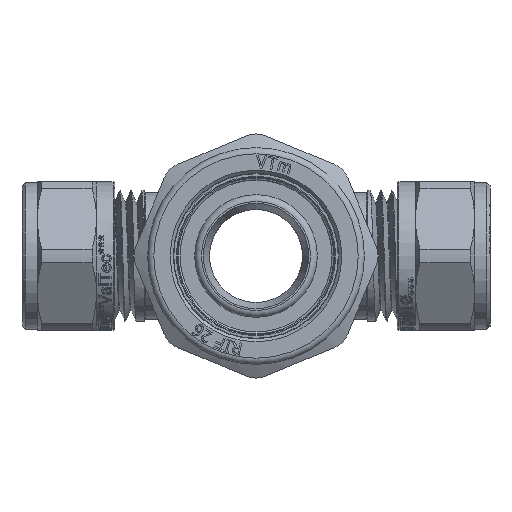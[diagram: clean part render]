
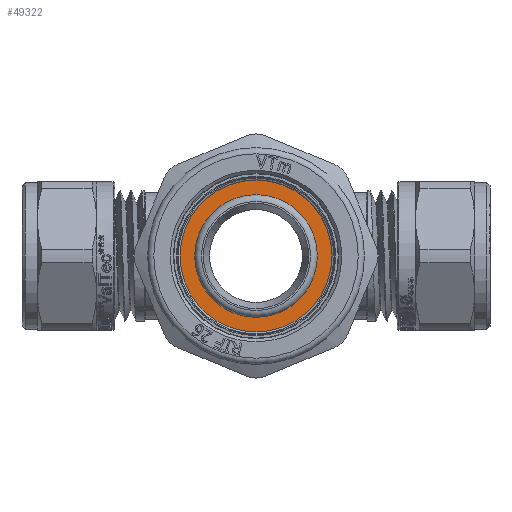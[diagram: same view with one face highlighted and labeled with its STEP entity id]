
A CAD part, left-side view. The second image highlights one B-rep face of the part: STEP entity #49322.
In plain terms, the highlighted planar face has unit normal (-1, 0, 0).
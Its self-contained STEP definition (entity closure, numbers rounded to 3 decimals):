
#2301=PLANE('',#51787);
#2637=FACE_BOUND('',#7585,.T.);
#4714=FACE_OUTER_BOUND('',#7584,.T.);
#7584=EDGE_LOOP('',(#43052,#43053));
#7585=EDGE_LOOP('',(#43054,#43055));
#9147=CIRCLE('',#51785,9.9);
#9148=CIRCLE('',#51786,9.9);
#9149=CIRCLE('',#51788,13.1);
#9150=CIRCLE('',#51789,13.1);
#22870=VERTEX_POINT('',#99817);
#22871=VERTEX_POINT('',#99818);
#22872=VERTEX_POINT('',#99823);
#22873=VERTEX_POINT('',#99824);
#29835=EDGE_CURVE('',#22870,#22871,#9147,.T.);
#29836=EDGE_CURVE('',#22871,#22870,#9148,.T.);
#29838=EDGE_CURVE('',#22872,#22873,#9149,.T.);
#29839=EDGE_CURVE('',#22873,#22872,#9150,.T.);
#43052=ORIENTED_EDGE('',*,*,#29838,.F.);
#43053=ORIENTED_EDGE('',*,*,#29839,.F.);
#43054=ORIENTED_EDGE('',*,*,#29835,.T.);
#43055=ORIENTED_EDGE('',*,*,#29836,.T.);
#49322=ADVANCED_FACE('',(#4714,#2637),#2301,.T.);
#51785=AXIS2_PLACEMENT_3D('',#99819,#58479,#58480);
#51786=AXIS2_PLACEMENT_3D('',#99820,#58481,#58482);
#51787=AXIS2_PLACEMENT_3D('',#99822,#58484,#58485);
#51788=AXIS2_PLACEMENT_3D('',#99825,#58486,#58487);
#51789=AXIS2_PLACEMENT_3D('',#99826,#58488,#58489);
#58479=DIRECTION('center_axis',(1.,0.,0.));
#58480=DIRECTION('ref_axis',(0.,0.,1.));
#58481=DIRECTION('center_axis',(1.,0.,0.));
#58482=DIRECTION('ref_axis',(0.,0.,1.));
#58484=DIRECTION('center_axis',(-1.,0.,0.));
#58485=DIRECTION('ref_axis',(0.,0.,-1.));
#58486=DIRECTION('center_axis',(1.,0.,0.));
#58487=DIRECTION('ref_axis',(0.,0.,1.));
#58488=DIRECTION('center_axis',(1.,0.,0.));
#58489=DIRECTION('ref_axis',(0.,0.,1.));
#99817=CARTESIAN_POINT('',(-22.,9.9,0.));
#99818=CARTESIAN_POINT('',(-22.,-9.9,0.));
#99819=CARTESIAN_POINT('Origin',(-22.,0.,0.));
#99820=CARTESIAN_POINT('Origin',(-22.,0.,0.));
#99822=CARTESIAN_POINT('Origin',(-22.,13.1,0.));
#99823=CARTESIAN_POINT('',(-22.,13.1,0.));
#99824=CARTESIAN_POINT('',(-22.,-13.1,0.));
#99825=CARTESIAN_POINT('Origin',(-22.,0.,0.));
#99826=CARTESIAN_POINT('Origin',(-22.,0.,0.));
